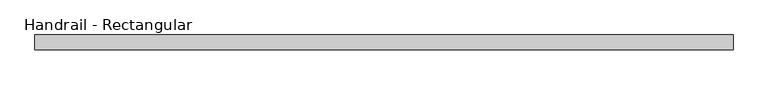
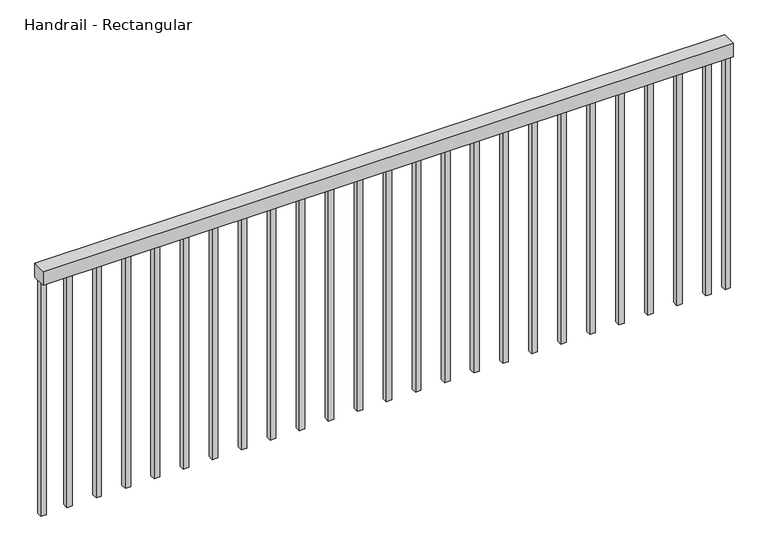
"""IFC4 building model written with IfcOpenShell, lengths in millimetres: railing geometry, Handrail - Rectangular."""

from ifc_helpers import new_model, si_unit, frame, origin, place, context, project, spatial, polyline, outline, extrude, source, transform, mapped, element, save


def handrail_rectangular_682db563(model_context):
    return source(origin(), model_context, "Body", "SweptSolid", [
        extrude(outline(polyline([(49008.9536092, 6334.1429434), (49008.9536092, 6384.9429434), (51421.9536092, 6384.9429434), (51421.9536092, 6334.1429434), (49008.9536092, 6334.1429434)])), frame((0.0, 0.0, 3340.1), z_axis=(0.0, 0.0, 1.0), x_axis=(1.0, 0.0, 0.0)), (0.0, 0.0, 1.0), 50.8),
        extrude(outline(polyline([(51336.2286092, 6350.0179434), (51336.2286092, 6369.0679434), (51355.2786092, 6369.0679434), (51355.2786092, 6350.0179434), (51336.2286092, 6350.0179434)])), frame((0.0, 0.0, 2476.5), z_axis=(0.0, 0.0, 1.0), x_axis=(1.0, 0.0, 0.0)), (0.0, 0.0, 1.0), 863.6),
        extrude(outline(polyline([(51234.6286092, 6350.0179434), (51234.6286092, 6369.0679434), (51253.6786092, 6369.0679434), (51253.6786092, 6350.0179434), (51234.6286092, 6350.0179434)])), frame((0.0, 0.0, 2476.5), z_axis=(0.0, 0.0, 1.0), x_axis=(1.0, 0.0, 0.0)), (0.0, 0.0, 1.0), 863.6),
        extrude(outline(polyline([(51133.0286092, 6350.0179434), (51133.0286092, 6369.0679434), (51152.0786092, 6369.0679434), (51152.0786092, 6350.0179434), (51133.0286092, 6350.0179434)])), frame((0.0, 0.0, 2476.5), z_axis=(0.0, 0.0, 1.0), x_axis=(1.0, 0.0, 0.0)), (0.0, 0.0, 1.0), 863.6),
        extrude(outline(polyline([(51031.4286092, 6350.0179434), (51031.4286092, 6369.0679434), (51050.4786092, 6369.0679434), (51050.4786092, 6350.0179434), (51031.4286092, 6350.0179434)])), frame((0.0, 0.0, 2476.5), z_axis=(0.0, 0.0, 1.0), x_axis=(1.0, 0.0, 0.0)), (0.0, 0.0, 1.0), 863.6),
        extrude(outline(polyline([(50929.8286092, 6350.0179434), (50929.8286092, 6369.0679434), (50948.8786092, 6369.0679434), (50948.8786092, 6350.0179434), (50929.8286092, 6350.0179434)])), frame((0.0, 0.0, 2476.5), z_axis=(0.0, 0.0, 1.0), x_axis=(1.0, 0.0, 0.0)), (0.0, 0.0, 1.0), 863.6),
        extrude(outline(polyline([(50828.2286092, 6350.0179434), (50828.2286092, 6369.0679434), (50847.2786092, 6369.0679434), (50847.2786092, 6350.0179434), (50828.2286092, 6350.0179434)])), frame((0.0, 0.0, 2476.5), z_axis=(0.0, 0.0, 1.0), x_axis=(1.0, 0.0, 0.0)), (0.0, 0.0, 1.0), 863.6),
        extrude(outline(polyline([(50726.6286092, 6350.0179434), (50726.6286092, 6369.0679434), (50745.6786092, 6369.0679434), (50745.6786092, 6350.0179434), (50726.6286092, 6350.0179434)])), frame((0.0, 0.0, 2476.5), z_axis=(0.0, 0.0, 1.0), x_axis=(1.0, 0.0, 0.0)), (0.0, 0.0, 1.0), 863.6),
        extrude(outline(polyline([(50625.0286092, 6350.0179434), (50625.0286092, 6369.0679434), (50644.0786092, 6369.0679434), (50644.0786092, 6350.0179434), (50625.0286092, 6350.0179434)])), frame((0.0, 0.0, 2476.5), z_axis=(0.0, 0.0, 1.0), x_axis=(1.0, 0.0, 0.0)), (0.0, 0.0, 1.0), 863.6),
        extrude(outline(polyline([(50523.4286092, 6350.0179434), (50523.4286092, 6369.0679434), (50542.4786092, 6369.0679434), (50542.4786092, 6350.0179434), (50523.4286092, 6350.0179434)])), frame((0.0, 0.0, 2476.5), z_axis=(0.0, 0.0, 1.0), x_axis=(1.0, 0.0, 0.0)), (0.0, 0.0, 1.0), 863.6),
        extrude(outline(polyline([(50421.8286092, 6350.0179434), (50421.8286092, 6369.0679434), (50440.8786092, 6369.0679434), (50440.8786092, 6350.0179434), (50421.8286092, 6350.0179434)])), frame((0.0, 0.0, 2476.5), z_axis=(0.0, 0.0, 1.0), x_axis=(1.0, 0.0, 0.0)), (0.0, 0.0, 1.0), 863.6),
        extrude(outline(polyline([(50320.2286092, 6350.0179434), (50320.2286092, 6369.0679434), (50339.2786092, 6369.0679434), (50339.2786092, 6350.0179434), (50320.2286092, 6350.0179434)])), frame((0.0, 0.0, 2476.5), z_axis=(0.0, 0.0, 1.0), x_axis=(1.0, 0.0, 0.0)), (0.0, 0.0, 1.0), 863.6),
        extrude(outline(polyline([(50218.6286092, 6350.0179434), (50218.6286092, 6369.0679434), (50237.6786092, 6369.0679434), (50237.6786092, 6350.0179434), (50218.6286092, 6350.0179434)])), frame((0.0, 0.0, 2476.5), z_axis=(0.0, 0.0, 1.0), x_axis=(1.0, 0.0, 0.0)), (0.0, 0.0, 1.0), 863.6),
        extrude(outline(polyline([(50117.0286092, 6350.0179434), (50117.0286092, 6369.0679434), (50136.0786092, 6369.0679434), (50136.0786092, 6350.0179434), (50117.0286092, 6350.0179434)])), frame((0.0, 0.0, 2476.5), z_axis=(0.0, 0.0, 1.0), x_axis=(1.0, 0.0, 0.0)), (0.0, 0.0, 1.0), 863.6),
        extrude(outline(polyline([(50015.4286092, 6350.0179434), (50015.4286092, 6369.0679434), (50034.4786092, 6369.0679434), (50034.4786092, 6350.0179434), (50015.4286092, 6350.0179434)])), frame((0.0, 0.0, 2476.5), z_axis=(0.0, 0.0, 1.0), x_axis=(1.0, 0.0, 0.0)), (0.0, 0.0, 1.0), 863.6),
        extrude(outline(polyline([(49913.8286092, 6350.0179434), (49913.8286092, 6369.0679434), (49932.8786092, 6369.0679434), (49932.8786092, 6350.0179434), (49913.8286092, 6350.0179434)])), frame((0.0, 0.0, 2476.5), z_axis=(0.0, 0.0, 1.0), x_axis=(1.0, 0.0, 0.0)), (0.0, 0.0, 1.0), 863.6),
        extrude(outline(polyline([(49812.2286092, 6350.0179434), (49812.2286092, 6369.0679434), (49831.2786092, 6369.0679434), (49831.2786092, 6350.0179434), (49812.2286092, 6350.0179434)])), frame((0.0, 0.0, 2476.5), z_axis=(0.0, 0.0, 1.0), x_axis=(1.0, 0.0, 0.0)), (0.0, 0.0, 1.0), 863.6),
        extrude(outline(polyline([(49710.6286092, 6350.0179434), (49710.6286092, 6369.0679434), (49729.6786092, 6369.0679434), (49729.6786092, 6350.0179434), (49710.6286092, 6350.0179434)])), frame((0.0, 0.0, 2476.5), z_axis=(0.0, 0.0, 1.0), x_axis=(1.0, 0.0, 0.0)), (0.0, 0.0, 1.0), 863.6),
        extrude(outline(polyline([(49609.0286092, 6350.0179434), (49609.0286092, 6369.0679434), (49628.0786092, 6369.0679434), (49628.0786092, 6350.0179434), (49609.0286092, 6350.0179434)])), frame((0.0, 0.0, 2476.5), z_axis=(0.0, 0.0, 1.0), x_axis=(1.0, 0.0, 0.0)), (0.0, 0.0, 1.0), 863.6),
        extrude(outline(polyline([(49507.4286092, 6350.0179434), (49507.4286092, 6369.0679434), (49526.4786092, 6369.0679434), (49526.4786092, 6350.0179434), (49507.4286092, 6350.0179434)])), frame((0.0, 0.0, 2476.5), z_axis=(0.0, 0.0, 1.0), x_axis=(1.0, 0.0, 0.0)), (0.0, 0.0, 1.0), 863.6),
        extrude(outline(polyline([(49405.8286092, 6350.0179434), (49405.8286092, 6369.0679434), (49424.8786092, 6369.0679434), (49424.8786092, 6350.0179434), (49405.8286092, 6350.0179434)])), frame((0.0, 0.0, 2476.5), z_axis=(0.0, 0.0, 1.0), x_axis=(1.0, 0.0, 0.0)), (0.0, 0.0, 1.0), 863.6),
        extrude(outline(polyline([(49304.2286092, 6350.0179434), (49304.2286092, 6369.0679434), (49323.2786092, 6369.0679434), (49323.2786092, 6350.0179434), (49304.2286092, 6350.0179434)])), frame((0.0, 0.0, 2476.5), z_axis=(0.0, 0.0, 1.0), x_axis=(1.0, 0.0, 0.0)), (0.0, 0.0, 1.0), 863.6),
        extrude(outline(polyline([(49202.6286092, 6350.0179434), (49202.6286092, 6369.0679434), (49221.6786092, 6369.0679434), (49221.6786092, 6350.0179434), (49202.6286092, 6350.0179434)])), frame((0.0, 0.0, 2476.5), z_axis=(0.0, 0.0, 1.0), x_axis=(1.0, 0.0, 0.0)), (0.0, 0.0, 1.0), 863.6),
        extrude(outline(polyline([(49101.0286092, 6350.0179434), (49101.0286092, 6369.0679434), (49120.0786092, 6369.0679434), (49120.0786092, 6350.0179434), (49101.0286092, 6350.0179434)])), frame((0.0, 0.0, 2476.5), z_axis=(0.0, 0.0, 1.0), x_axis=(1.0, 0.0, 0.0)), (0.0, 0.0, 1.0), 863.6),
        extrude(outline(polyline([(51402.9036092, 6350.0179434), (51402.9036092, 6369.0679434), (51421.9536092, 6369.0679434), (51421.9536092, 6350.0179434), (51402.9036092, 6350.0179434)])), frame((0.0, 0.0, 2476.5), z_axis=(0.0, 0.0, 1.0), x_axis=(1.0, 0.0, 0.0)), (0.0, 0.0, 1.0), 863.6),
        extrude(outline(polyline([(49008.9536092, 6350.0179434), (49008.9536092, 6369.0679434), (49028.0036092, 6369.0679434), (49028.0036092, 6350.0179434), (49008.9536092, 6350.0179434)])), frame((0.0, 0.0, 2476.5), z_axis=(0.0, 0.0, 1.0), x_axis=(1.0, 0.0, 0.0)), (0.0, 0.0, 1.0), 863.6),
    ])


if __name__ == "__main__":
    model = new_model("IFC4")
    model_context = context("Model", 3, world=origin())
    ifc_project = project(units=[si_unit("LENGTHUNIT", "METRE", prefix="MILLI")], contexts=[model_context])
    site = spatial("IfcSite", under=ifc_project)
    building = spatial("IfcBuilding", under=site)
    placement = place(None, origin())
    handrail_rectangular_shape = handrail_rectangular_682db563(model_context)
    element("IfcRailing", 1, ObjectType="Handrail - Rectangular", at=placement, inside=building, context=model_context, shape_type="MappedRepresentation", body=[
        mapped(handrail_rectangular_shape, transform((0.0, 0.0, 0.0), x_axis=(1.0, 0.0, 0.0), y_axis=(0.0, 1.0, 0.0), z_axis=(0.0, 0.0, 1.0))),
    ])
    save(model, "model.ifc")
